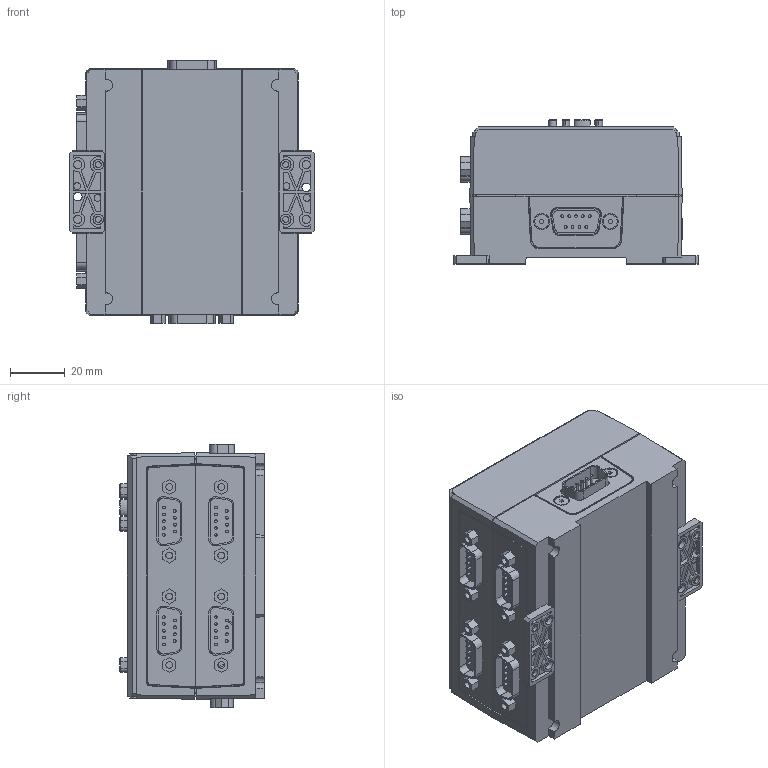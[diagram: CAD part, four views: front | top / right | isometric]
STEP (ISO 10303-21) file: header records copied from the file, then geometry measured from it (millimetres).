
FILE_DESCRIPTION(/* description */ (''),/* implementation_level */ '2;1');
FILE_NAME(/* name */ '新集线器232主盒示意图.stp',/* time_stamp */ '2024-09-02T09:52:00+08:00',/* author */ (''),/* organization */ (''),/* preprocessor_version */ 'ST-DEVELOPER v16.7',/* originating_system */ 'SIEMENS PLM Software NX 1919',/* authorisation */ '');
FILE_SCHEMA (('AUTOMOTIVE_DESIGN { 1 0 10303 214 3 1 1 1 }'));
Length unit declared in the file: millimetre
Products named in the file (1): jzCAE475F15vxv
Bounding box: 89.5 x 52.65 x 96.35 mm (x, y, z)
Volume: 332267.7 mm3; surface area: 52258.9 mm2
Topology: 1 solids, 20 shells, 1280 faces, 3194 edges, 2117 vertices
Faces by surface type: plane 882, cylinder 260, cone 106, bspline 16, extrusion 10, torus 6
Full cylindrical faces by diameter (mm): 2.5 x10, 3.2 x2
Entity records: 39677 total; most frequent: CARTESIAN_POINT 8238, ORIENTED_EDGE 6330, DIRECTION 6314, EDGE_CURVE 3165, VECTOR 2290, LINE 2280, VERTEX_POINT 2110, AXIS2_PLACEMENT_3D 2012
